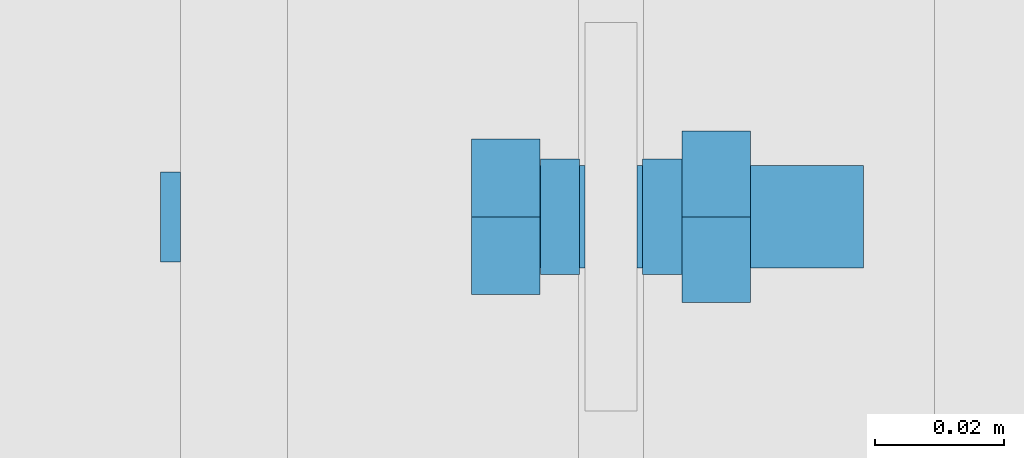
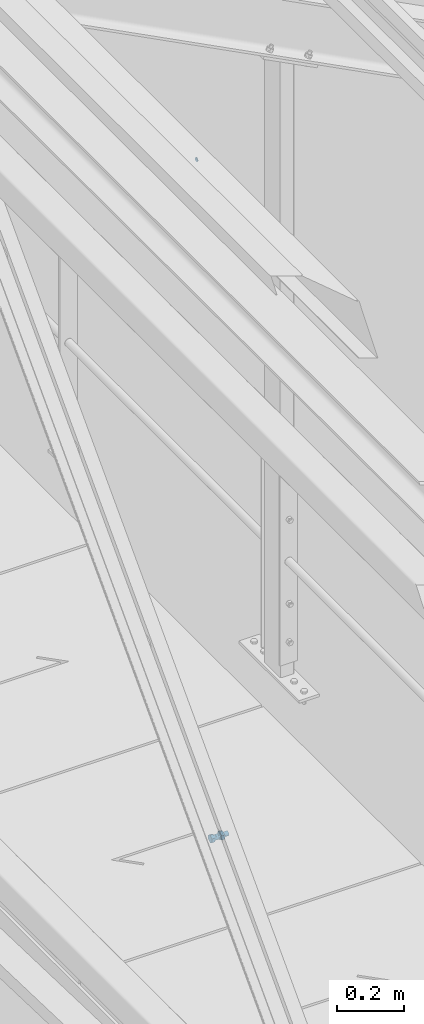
# One storey, part 282 of 362: 2 mechanical fasteners.
"""IFC2X3 building model written with IfcOpenShell, lengths in millimetres."""

from ifc_helpers import new_model, si_unit, frame, origin_with_axes, origin_2d_with_axis, place, context, subcontext, project, spatial, polyline, circle, outline, extrude, source, transform, mapped, material, type_object, element, save


model = new_model("IFC2X3")

# Units and contexts
model_context = context("Model", 3, precision=1e-05, world=origin_with_axes())
body_context = subcontext(model_context, "Body", "Model", "MODEL_VIEW")
ifc_project = project(units=[si_unit("LENGTHUNIT", "METRE", prefix="MILLI"), si_unit("AREAUNIT", "SQUARE_METRE"), si_unit("VOLUMEUNIT", "CUBIC_METRE"), si_unit("MASSUNIT", "GRAM", prefix="KILO"), si_unit("TIMEUNIT", "SECOND"), si_unit("PLANEANGLEUNIT", "RADIAN"), si_unit("SOLIDANGLEUNIT", "STERADIAN"), si_unit("THERMODYNAMICTEMPERATUREUNIT", "DEGREE_CELSIUS"), si_unit("LUMINOUSINTENSITYUNIT", "LUMEN")], contexts=[model_context])

# Site, building, storey
site_placement = place(None, origin_with_axes())
site = spatial("IfcSite", under=ifc_project, at=site_placement, Name="Undefined", CompositionType="ELEMENT")
building_placement = place(site_placement, origin_with_axes())
building = spatial("IfcBuilding", under=site, at=building_placement, Name="Undefined", CompositionType="ELEMENT")
storey_placement = place(building_placement, origin_with_axes())
storey = spatial("IfcBuildingStorey", under=building, at=storey_placement, Name="Undefined", CompositionType="ELEMENT", Elevation=0.0)

# Mechanical fasteners
ifc_material_1 = material(Name="6.8")
mechanical_fastener_type = type_object("IfcMechanicalFastenerType", Name="Bolt assembly")
shared_shape_1 = source(origin_with_axes(), body_context, "Body", "SweptSolid", [
    extrude(circle(Radius=7.0, at=origin_2d_with_axis()), frame((0.0, 0.0, 0.0), z_axis=(0.0, 1.0, 0.0), x_axis=(1.0, 0.0, 0.0)), (0.0, 0.0, 1.0), 3.1),
])
mechanical_fastener_1_placement = place(storey_placement, frame((23403.4999989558, 9500.00015768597, 11741.4098788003), z_axis=(0.0, -1.0, 0.0), x_axis=(0.0, 0.0, 1.0)))
element("IfcMechanicalFastener", 1, at=mechanical_fastener_1_placement, inside=storey, type_object=mechanical_fastener_type, material=ifc_material_1, Name="Bolt assembly", NominalDiameter=12.0, NominalLength=3.0, context=body_context, shape_type="MappedRepresentation", body=[
    mapped(shared_shape_1, transform((0.0, 0.0, 0.0))),
])
ifc_material_2 = material(Name="8.8-SB-ZINGUE")
shared_shape_2 = source(origin_with_axes(), body_context, "Body", "SweptSolid", [
    extrude(circle(Radius=9.0, at=origin_2d_with_axis()), frame((0.0, -10.9000000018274, 0.0), z_axis=(0.0, 1.0, 0.0), x_axis=(1.0, 0.0, 0.0)), (0.0, 0.0, 1.0), 6.0),
    extrude(circle(Radius=9.0, at=origin_2d_with_axis()), frame((0.0, 4.9000000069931, 0.0), z_axis=(0.0, 1.0, 0.0), x_axis=(1.0, 0.0, 0.0)), (0.0, 0.0, 1.0), 6.1),
    extrude(circle(Radius=9.0, at=origin_2d_with_axis()), frame((0.0, -3.99999923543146, 0.0), z_axis=(0.0, 1.0, 0.0), x_axis=(1.0, 0.0, 0.0)), (0.0, 0.0, 1.0), 8.0),
    extrude(outline(polyline([(13.85640646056, 0.0), (6.92820323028, 12.0000000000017), (-6.92820323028, 12.0000000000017), (-13.85640646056, 0.0), (-6.92820323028, -12.0000000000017), (6.92820323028, -12.0000000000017), (13.85640646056, 0.0)])), frame((0.0, -21.5600000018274, 0.0), z_axis=(0.0, 1.0, 0.0), x_axis=(1.0, 0.0, 0.0)), (0.0, 0.0, 1.0), 10.56),
    extrude(circle(Radius=8.0, at=origin_2d_with_axis()), frame((0.0, -11.0000000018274, 0.0), z_axis=(0.0, 1.0, 0.0), x_axis=(1.0, 0.0, 0.0)), (0.0, 0.0, 1.0), 50.0),
    extrude(outline(polyline([(15.3344231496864, 0.0), (7.6672115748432, 13.2800000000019), (-7.6672115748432, 13.2800000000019), (-15.3344231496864, 0.0), (-7.6672115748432, -13.2800000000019), (7.6672115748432, -13.2800000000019), (15.3344231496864, 0.0)])), frame((0.0, 11.0000000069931, 0.0), z_axis=(0.0, 1.0, 0.0), x_axis=(1.0, 0.0, 0.0)), (0.0, 0.0, 1.0), 10.56),
])
mechanical_fastener_2_placement = place(storey_placement, frame((23470.0, 9500.00000093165, 9242.99999913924), z_axis=(0.0, 1.0, 0.0), x_axis=(0.0, 0.0, 1.0)))
element("IfcMechanicalFastener", 2, at=mechanical_fastener_2_placement, inside=storey, type_object=mechanical_fastener_type, material=ifc_material_2, Name="Bolt assembly", NominalDiameter=16.0, NominalLength=50.0, context=body_context, shape_type="MappedRepresentation", body=[
    mapped(shared_shape_2, transform((0.0, 0.0, 0.0))),
])

save(model, "model.ifc")
